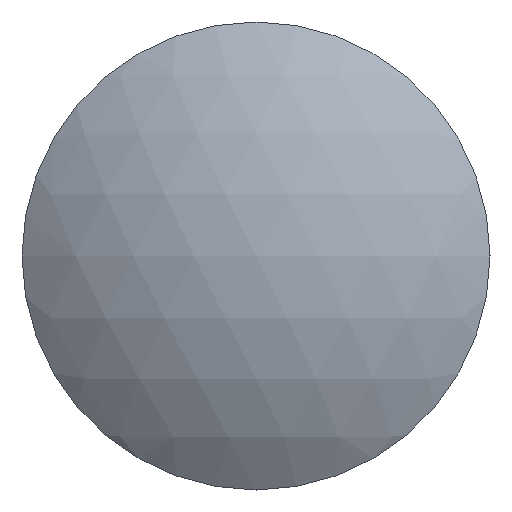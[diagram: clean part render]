
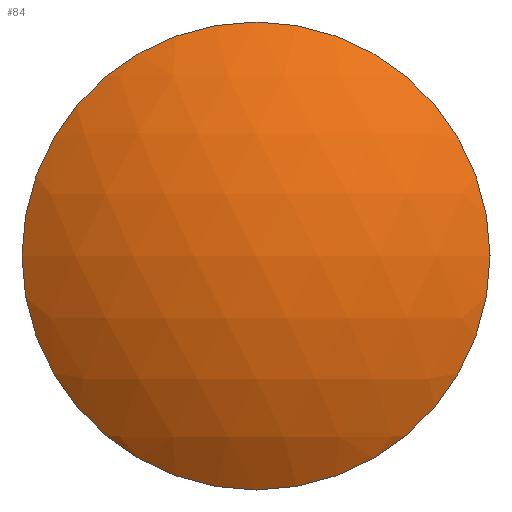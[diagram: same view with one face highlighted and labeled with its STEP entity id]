
A CAD part, front view. The second image highlights one B-rep face of the part: STEP entity #84.
In plain terms, the highlighted spherical face has radius 25.95 mm.
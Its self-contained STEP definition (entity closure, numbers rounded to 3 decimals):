
#68=CARTESIAN_POINT('',(0.0,19.15,0.0));
#69=DIRECTION('',(0.0,0.0,1.0));
#70=DIRECTION('',(1.0,0.0,0.0));
#71=AXIS2_PLACEMENT_3D('',#68,#69,#70);
#72=SPHERICAL_SURFACE('',#71,25.95);
#73=CARTESIAN_POINT('',(-15.,-2.026,0.0));
#74=VERTEX_POINT('',#73);
#75=CARTESIAN_POINT('',(0.0,-2.026,0.0));
#76=DIRECTION('',(0.0,1.0,0.0));
#77=DIRECTION('',(-1.0,0.0,0.0));
#78=AXIS2_PLACEMENT_3D('',#75,#76,#77);
#79=CIRCLE('',#78,15.);
#80=EDGE_CURVE('',#74,#74,#79,.T.);
#81=ORIENTED_EDGE('',*,*,#80,.F.);
#82=EDGE_LOOP('',(#81));
#83=FACE_OUTER_BOUND('',#82,.T.);
#84=ADVANCED_FACE('',(#83),#72,.T.);
